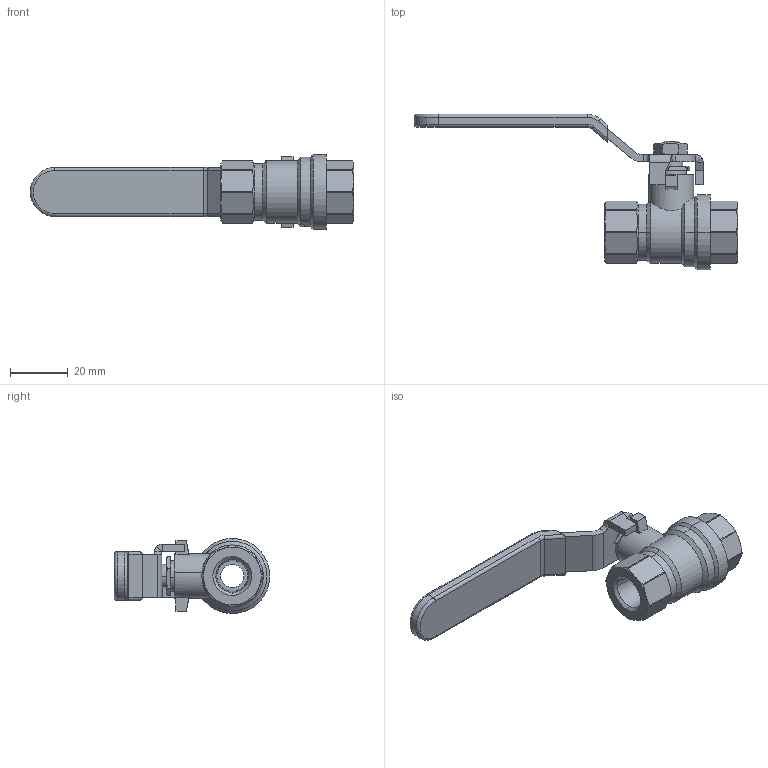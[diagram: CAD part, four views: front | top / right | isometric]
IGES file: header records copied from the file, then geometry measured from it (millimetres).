
Global section: file name: No Iges File Name specified; native system: AutoDesk Inventor R12.0; preprocessor: AutoDesk Inventor Iges Exporter R12.0; date: 20110127.160047; units: millimetre
Bounding box: 112 x 53.91 x 26 mm (x, y, z)
Volume: 23100 mm3; surface area: 18968.2 mm2
Topology: 6 solids, 6 shells, 1587 faces, 4257 edges, 2832 vertices
Faces by surface type: plane 819, bspline 537, cylinder 78, revolution 72, cone 59, torus 18, sphere 4
